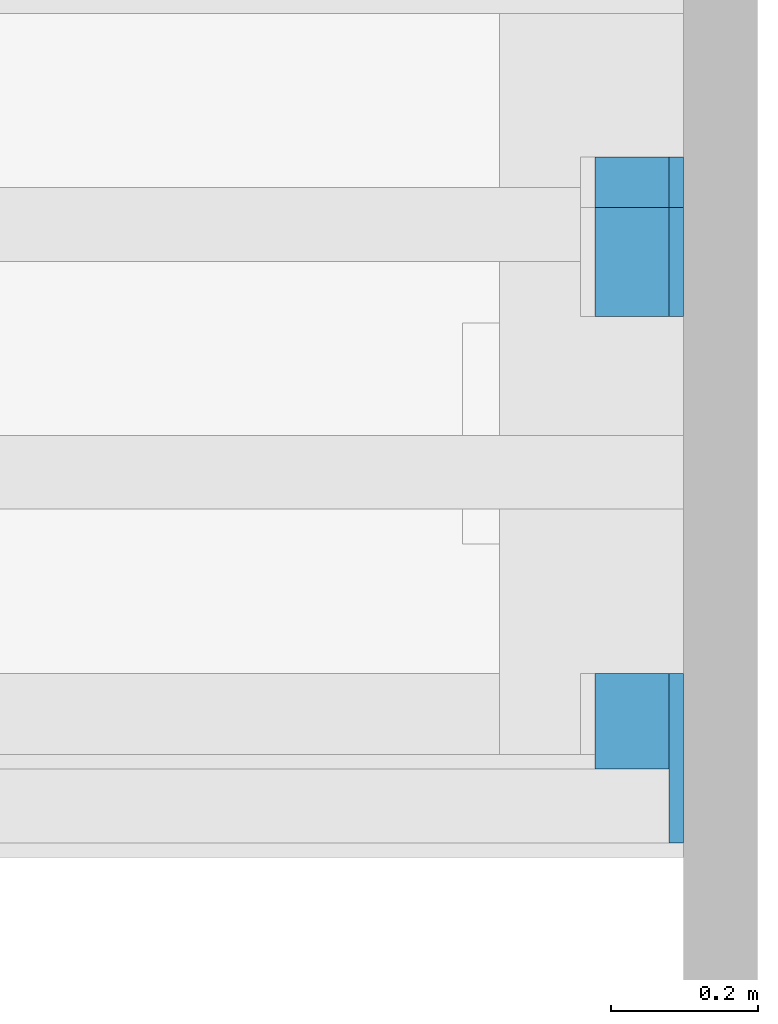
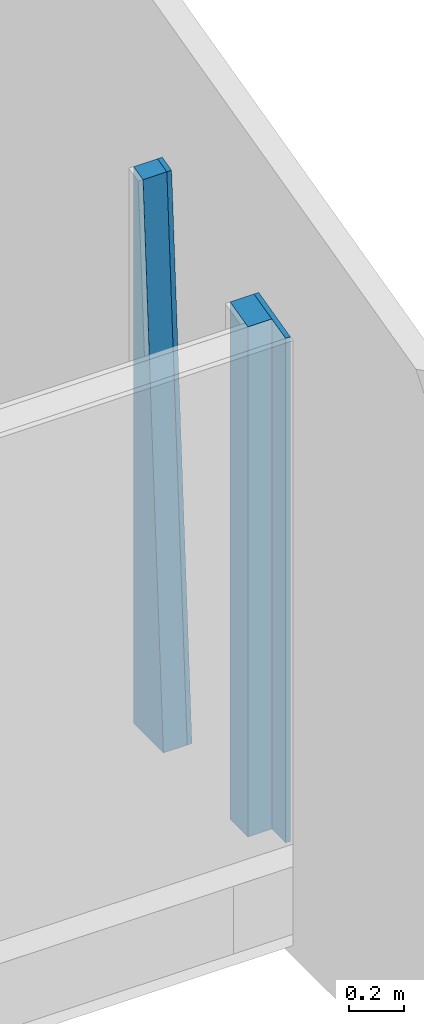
# One storey, part 12 of 13: 2 building element parts, 1 element without a shape of its own.
"""IFC2X3 building model written with IfcOpenShell, lengths in millimetres."""

from ifc_helpers import new_model, entity, si_unit, converted_unit, derived_unit, money_unit, direction, frame, origin_with_axes, place, context, subcontext, project, spatial, polyline, outline, extrude, boolean, faceted_brep, material, type_object, element, aggregate, save


model = new_model("IFC2X3")

# Units and contexts
model_context = context("Model", 3, precision=0.01, world=origin_with_axes(), true_north=direction((0.293984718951, 0.955810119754)))
body_context = subcontext(model_context, "Body", "Model", "MODEL_VIEW")
ifc_project = project(units=[si_unit("LENGTHUNIT", "METRE", prefix="MILLI"), si_unit("AREAUNIT", "SQUARE_METRE"), si_unit("VOLUMEUNIT", "CUBIC_METRE"), converted_unit("PLANEANGLEUNIT", "DEGREE", entity("IfcPlaneAngleMeasure", 0.0174532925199), si_unit("PLANEANGLEUNIT", "RADIAN"), dimensions=[0, 0, 0, 0, 0, 0, 0]), si_unit("SOLIDANGLEUNIT", "STERADIAN"), money_unit("USD"), converted_unit("TIMEUNIT", "Year", entity("IfcTimeMeasure", 31556926.0), si_unit("TIMEUNIT", "SECOND"), dimensions=[0, 0, 1, 0, 0, 0, 0]), si_unit("MASSUNIT", "GRAM", prefix="KILO"), si_unit("THERMODYNAMICTEMPERATUREUNIT", "DEGREE_CELSIUS"), si_unit("LUMINOUSINTENSITYUNIT", "LUMEN"), si_unit("ENERGYUNIT", "JOULE", prefix="MEGA"), derived_unit("THERMALCONDUCTANCEUNIT", [(si_unit("POWERUNIT", "WATT"), 1), (si_unit("LENGTHUNIT", "METRE"), -1), (si_unit("THERMODYNAMICTEMPERATUREUNIT", "KELVIN"), -1)]), derived_unit("SPECIFICHEATCAPACITYUNIT", [(si_unit("ENERGYUNIT", "JOULE"), 1), (si_unit("MASSUNIT", "GRAM", prefix="KILO"), -1), (si_unit("THERMODYNAMICTEMPERATUREUNIT", "KELVIN"), -1)]), derived_unit("MASSDENSITYUNIT", [(si_unit("MASSUNIT", "GRAM", prefix="KILO"), 1), (si_unit("VOLUMEUNIT", "CUBIC_METRE"), -1)])], contexts=[model_context])

# Site, building, storey
site_placement = place(None, origin_with_axes())
site = spatial("IfcSite", under=ifc_project, at=site_placement, Name="Local", CompositionType="ELEMENT")
building_placement = place(site_placement, origin_with_axes())
building = spatial("IfcBuilding", under=site, at=building_placement, Name="Construção", CompositionType="ELEMENT")
storey_placement = place(building_placement, frame((0.0, 0.0, 3050.0), z_axis=(0.0, 0.0, 1.0), x_axis=(1.0, 0.0, 0.0)))
storey = spatial("IfcBuildingStorey", under=building, at=storey_placement, Name="Primeiro Pavimento", CompositionType="ELEMENT", Elevation=3050.0)

# Wall, building element parts
wall_type = type_object("IfcWallType", Name="Alvenaria Tijolo Maciço com Revestimento 14cm 140", PredefinedType="NOTDEFINED")
wall_placement = place(storey_placement, frame((20579.6450727, 7800.63219788, 0.0), z_axis=(0.0, 0.0, 1.0), x_axis=(0.0, -1.0, 0.0)))
wall = element("IfcWall", 1, at=wall_placement, inside=storey, type_object=wall_type, Name="Parede")
ifc_material_1 = material(Name="Tijolo - Estrutural (1)")
building_element_part_1_placement = place(wall_placement, origin_with_axes())
building_element_part_1 = element("IfcBuildingElementPart", 2, at=building_element_part_1_placement, material=ifc_material_1, Name="Tijolo - Estrutural (1)", context=body_context, shape_type="CSG", body=[
    boolean("DIFFERENCE", boolean("DIFFERENCE", boolean("DIFFERENCE", extrude(outline(polyline([(0.0, -50.0), (950.0, -50.0), (950.0, 50.0), (0.0, 50.0), (0.0, -50.0)])), origin_with_axes(), (0.0, 0.0, 1.0), 3211.87314734), faceted_brep([(215.948275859, -50.0, 0.0), (68.0892643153, -50.0, 2450.23504847), (0.0, -50.0, 2467.21160876), (0.0, -50.0, 3211.87314734), (950.0, -50.0, 3211.87314734), (950.0, -50.0, 0.0), (810.0, -50.0, 0.0), (810.0, -50.0, 2265.25592646), (699.999999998, -50.0, 2292.68200677), (699.999999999, -50.0, 0.0), (215.948275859, -70.0, 0.0), (68.0892643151, -70.0, 2450.23504847), (0.0, -70.0, 2467.21160876), (0.0, -70.0, 3211.87314734), (950.0, -70.0, 3211.87314734), (950.0, -70.0, 0.0), (810.0, -70.0, 0.0), (810.0, -70.0, 2265.25592646), (699.999999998, -70.0, 2292.68200677), (699.999999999, -70.0, 0.0)], [[[0, 1, 2, 3, 4, 5, 6, 7, 8, 9]], [[0, 10, 11, 1]], [[12, 2, 1, 11]], [[2, 12, 13, 3]], [[3, 13, 14, 4]], [[14, 15, 5, 4]], [[16, 6, 5, 15]], [[7, 6, 16, 17]], [[17, 18, 8, 7]], [[19, 9, 8, 18]], [[10, 0, 9, 19]], [[11, 10, 19, 18, 17, 16, 15, 14, 13, 12]]])), faceted_brep([(215.948275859, 50.0, 0.0), (68.0892643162, 50.0, 2450.23504847), (0.0, 50.0, 2467.21160876), (0.0, 50.0, 3211.87314734), (950.0, 50.0, 3211.87314734), (950.0, 50.0, 0.0), (830.0, 50.0, 0.0), (830.0, 50.0, 2260.2693664), (699.999999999, 50.0, 2292.68200677), (699.999999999, 50.0, 0.0), (215.948275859, -50.0, 0.0), (68.0892643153, -50.0, 2450.23504847), (0.0, -50.0, 2467.21160876), (0.0, -50.0, 3211.87314734), (950.0, -50.0, 3211.87314734), (950.0, -50.0, 0.0), (830.0, -50.0, 0.0), (830.0, -50.0, 2260.2693664), (699.999999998, -50.0, 2292.68200677), (699.999999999, -50.0, 0.0)], [[[0, 1, 2, 3, 4, 5, 6, 7, 8, 9]], [[0, 10, 11, 1]], [[12, 2, 1, 11]], [[2, 12, 13, 3]], [[3, 13, 14, 4]], [[14, 15, 5, 4]], [[16, 6, 5, 15]], [[7, 6, 16, 17]], [[17, 18, 8, 7]], [[19, 9, 8, 18]], [[10, 0, 9, 19]], [[11, 10, 19, 18, 17, 16, 15, 14, 13, 12]]])), faceted_brep([(215.948275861, 69.9999996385, 0.0), (68.0892643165, 69.9999992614, 2450.23504847), (0.0, 69.9999992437, 2467.21160876), (0.0, 70.0, 3211.87314734), (950.0, 70.0, 3211.87314734), (950.0, 70.0, 0.0), (930.0, 70.0, 0.0), (930.0, 69.999999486, 2235.33656611), (699.999999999, 69.9999994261, 2292.68200677), (699.999999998, 69.9999996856, 0.0), (215.948275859, 50.0, 0.0), (68.0892643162, 50.0, 2450.23504847), (0.0, 50.0, 2467.21160876), (0.0, 50.0, 3211.87314734), (950.0, 50.0, 3211.87314734), (950.0, 50.0, 0.0), (930.0, 50.0, 0.0), (930.0, 50.0, 2235.33656611), (699.999999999, 50.0, 2292.68200677), (699.999999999, 50.0, 0.0)], [[[0, 1, 2, 3, 4, 5, 6, 7, 8, 9]], [[1, 0, 10, 11]], [[12, 2, 1, 11]], [[2, 12, 13, 3]], [[3, 13, 14, 4]], [[14, 15, 5, 4]], [[16, 6, 5, 15]], [[7, 6, 16, 17]], [[8, 7, 17, 18]], [[9, 8, 18, 19]], [[10, 0, 9, 19]], [[11, 10, 19, 18, 17, 16, 15, 14, 13, 12]]])),
])
ifc_material_2 = material(Name="Reboco (1)")
building_element_part_2_placement = place(wall_placement, origin_with_axes())
building_element_part_2 = element("IfcBuildingElementPart", 3, at=building_element_part_2_placement, material=ifc_material_2, Name="Reboco (1)", context=body_context, shape_type="CSG", body=[
    boolean("DIFFERENCE", boolean("DIFFERENCE", boolean("DIFFERENCE", extrude(outline(polyline([(0.0, 50.0), (950.0, 50.0), (950.0, 70.0), (0.0, 70.0), (0.0, 50.0)])), origin_with_axes(), (0.0, 0.0, 1.0), 3211.87314734), faceted_brep([(215.948275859, -50.0, 0.0), (68.0892643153, -50.0, 2450.23504847), (0.0, -50.0, 2467.21160876), (0.0, -50.0, 3211.87314734), (950.0, -50.0, 3211.87314734), (950.0, -50.0, 0.0), (810.0, -50.0, 0.0), (810.0, -50.0, 2265.25592646), (699.999999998, -50.0, 2292.68200677), (699.999999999, -50.0, 0.0), (215.948275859, -70.0, 0.0), (68.0892643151, -70.0, 2450.23504847), (0.0, -70.0, 2467.21160876), (0.0, -70.0, 3211.87314734), (950.0, -70.0, 3211.87314734), (950.0, -70.0, 0.0), (810.0, -70.0, 0.0), (810.0, -70.0, 2265.25592646), (699.999999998, -70.0, 2292.68200677), (699.999999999, -70.0, 0.0)], [[[0, 1, 2, 3, 4, 5, 6, 7, 8, 9]], [[0, 10, 11, 1]], [[12, 2, 1, 11]], [[2, 12, 13, 3]], [[3, 13, 14, 4]], [[14, 15, 5, 4]], [[16, 6, 5, 15]], [[7, 6, 16, 17]], [[17, 18, 8, 7]], [[19, 9, 8, 18]], [[10, 0, 9, 19]], [[11, 10, 19, 18, 17, 16, 15, 14, 13, 12]]])), faceted_brep([(215.948275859, 50.0, 0.0), (68.0892643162, 50.0, 2450.23504847), (0.0, 50.0, 2467.21160876), (0.0, 50.0, 3211.87314734), (950.0, 50.0, 3211.87314734), (950.0, 50.0, 0.0), (830.0, 50.0, 0.0), (830.0, 50.0, 2260.2693664), (699.999999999, 50.0, 2292.68200677), (699.999999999, 50.0, 0.0), (215.948275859, -50.0, 0.0), (68.0892643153, -50.0, 2450.23504847), (0.0, -50.0, 2467.21160876), (0.0, -50.0, 3211.87314734), (950.0, -50.0, 3211.87314734), (950.0, -50.0, 0.0), (830.0, -50.0, 0.0), (830.0, -50.0, 2260.2693664), (699.999999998, -50.0, 2292.68200677), (699.999999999, -50.0, 0.0)], [[[0, 1, 2, 3, 4, 5, 6, 7, 8, 9]], [[0, 10, 11, 1]], [[12, 2, 1, 11]], [[2, 12, 13, 3]], [[3, 13, 14, 4]], [[14, 15, 5, 4]], [[16, 6, 5, 15]], [[7, 6, 16, 17]], [[17, 18, 8, 7]], [[19, 9, 8, 18]], [[10, 0, 9, 19]], [[11, 10, 19, 18, 17, 16, 15, 14, 13, 12]]])), faceted_brep([(215.948275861, 69.9999996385, 0.0), (68.0892643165, 69.9999992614, 2450.23504847), (0.0, 69.9999992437, 2467.21160876), (0.0, 70.0, 3211.87314734), (950.0, 70.0, 3211.87314734), (950.0, 70.0, 0.0), (930.0, 70.0, 0.0), (930.0, 69.999999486, 2235.33656611), (699.999999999, 69.9999994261, 2292.68200677), (699.999999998, 69.9999996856, 0.0), (215.948275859, 50.0, 0.0), (68.0892643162, 50.0, 2450.23504847), (0.0, 50.0, 2467.21160876), (0.0, 50.0, 3211.87314734), (950.0, 50.0, 3211.87314734), (950.0, 50.0, 0.0), (930.0, 50.0, 0.0), (930.0, 50.0, 2235.33656611), (699.999999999, 50.0, 2292.68200677), (699.999999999, 50.0, 0.0)], [[[0, 1, 2, 3, 4, 5, 6, 7, 8, 9]], [[1, 0, 10, 11]], [[12, 2, 1, 11]], [[2, 12, 13, 3]], [[3, 13, 14, 4]], [[14, 15, 5, 4]], [[16, 6, 5, 15]], [[7, 6, 16, 17]], [[8, 7, 17, 18]], [[9, 8, 18, 19]], [[10, 0, 9, 19]], [[11, 10, 19, 18, 17, 16, 15, 14, 13, 12]]])),
])
aggregate(wall, [building_element_part_1, building_element_part_2])

save(model, "model.ifc")
